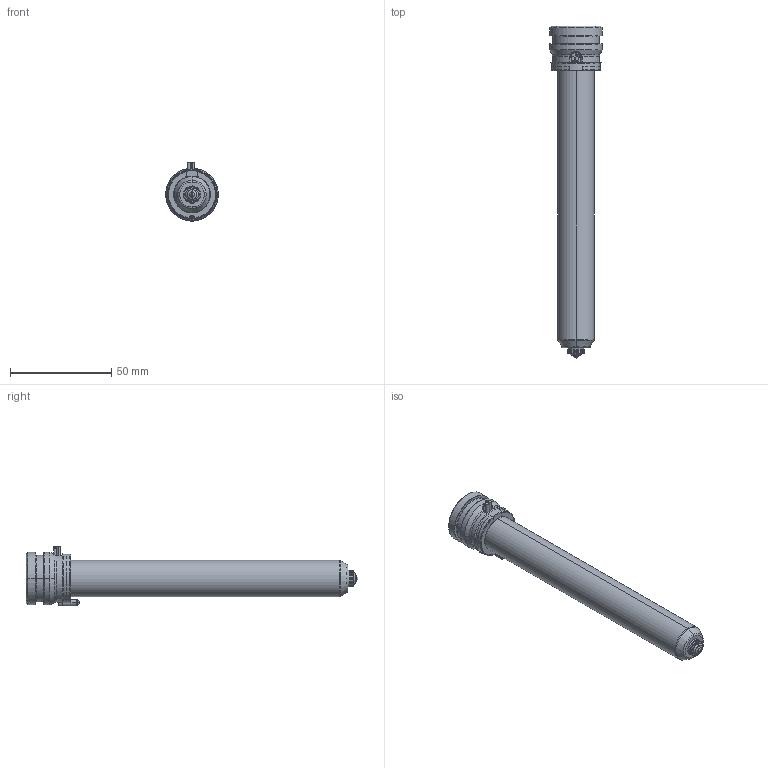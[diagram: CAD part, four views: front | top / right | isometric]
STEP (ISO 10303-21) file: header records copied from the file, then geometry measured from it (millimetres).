
FILE_DESCRIPTION((''),'2;1');
FILE_NAME('TH18146-A-1-PK-JG','2023-12-14T',('umhib'),('Thermoplay S.p.A.'),'PRO/ENGINEER BY PARAMETRIC TECHNOLOGY CORPORATION, 2017170','PRO/ENGINEER BY PARAMETRIC TECHNOLOGY CORPORATION, 2017170','');
FILE_SCHEMA(('CONFIG_CONTROL_DESIGN'));
Length unit declared in the file: millimetre
Products named in the file (1): TH18146-A-1-PK-JG
Bounding box: 26 x 164 x 29.5 mm (x, y, z)
Volume: 33112.4 mm3; surface area: 24050.9 mm2
Topology: 1 solids, 2 shells, 396 faces, 1032 edges, 641 vertices
Faces by surface type: cylinder 151, plane 85, cone 66, torus 56, bspline 24, sphere 12, extrusion 2
Entity records: 18002 total; most frequent: CARTESIAN_POINT 6093, ORIENTED_EDGE 2040, DIRECTION 2021, EDGE_CURVE 1022, AXIS2_PLACEMENT_3D 811, VERTEX_POINT 641, CIRCLE 440, EDGE_LOOP 416
